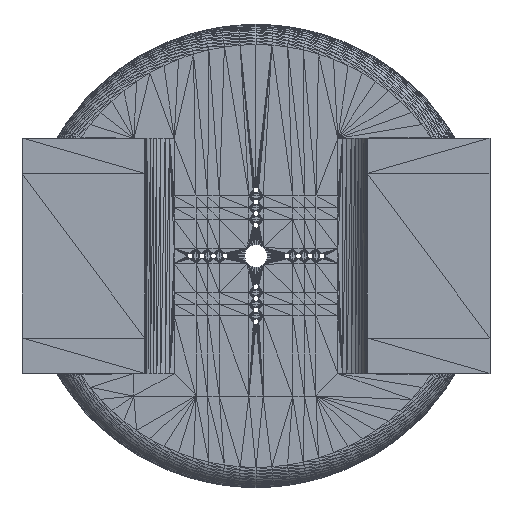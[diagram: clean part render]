
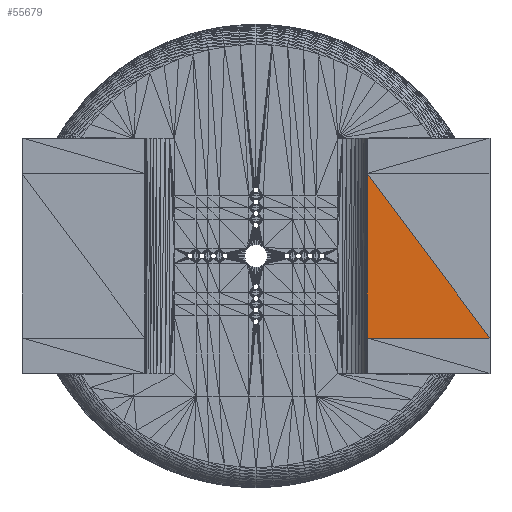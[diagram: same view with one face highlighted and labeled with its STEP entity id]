
A CAD part, top view. The second image highlights one B-rep face of the part: STEP entity #55679.
In plain terms, the highlighted planar face has unit normal (0, 0, 1).
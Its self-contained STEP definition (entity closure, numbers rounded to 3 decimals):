
#1393=FACE_OUTER_BOUND('',#6331,.T.);
#6331=EDGE_LOOP('',(#38683,#38684,#38685));
#12537=LINE('',#86774,#19944);
#12643=LINE('',#86986,#20050);
#12644=LINE('',#86987,#20051);
#19944=VECTOR('',#69481,10.);
#20050=VECTOR('',#69703,10.);
#20051=VECTOR('',#69704,10.);
#26033=VERTEX_POINT('',#86770);
#26034=VERTEX_POINT('',#86772);
#26040=VERTEX_POINT('',#86791);
#29788=EDGE_CURVE('',#26033,#26034,#12537,.T.);
#29894=EDGE_CURVE('',#26040,#26034,#12643,.T.);
#29895=EDGE_CURVE('',#26033,#26040,#12644,.T.);
#38683=ORIENTED_EDGE('',*,*,#29894,.F.);
#38684=ORIENTED_EDGE('',*,*,#29895,.F.);
#38685=ORIENTED_EDGE('',*,*,#29788,.T.);
#50741=PLANE('',#60631);
#55679=ADVANCED_FACE('',(#1393),#50741,.T.);
#60631=AXIS2_PLACEMENT_3D('',#86985,#69701,#69702);
#69481=DIRECTION('',(1.,0.,0.));
#69701=DIRECTION('center_axis',(0.,0.,1.));
#69702=DIRECTION('ref_axis',(1.,0.,0.));
#69703=DIRECTION('',(0.598,-0.802,0.));
#69704=DIRECTION('',(0.,1.,0.));
#86770=CARTESIAN_POINT('',(857.25,370.53,685.8));
#86772=CARTESIAN_POINT('',(1162.05,370.53,685.8));
#86774=CARTESIAN_POINT('',(857.25,370.53,685.8));
#86791=CARTESIAN_POINT('',(857.25,779.47,685.8));
#86985=CARTESIAN_POINT('Origin',(857.25,370.53,685.8));
#86986=CARTESIAN_POINT('',(857.25,779.47,685.8));
#86987=CARTESIAN_POINT('',(857.25,370.53,685.8));
